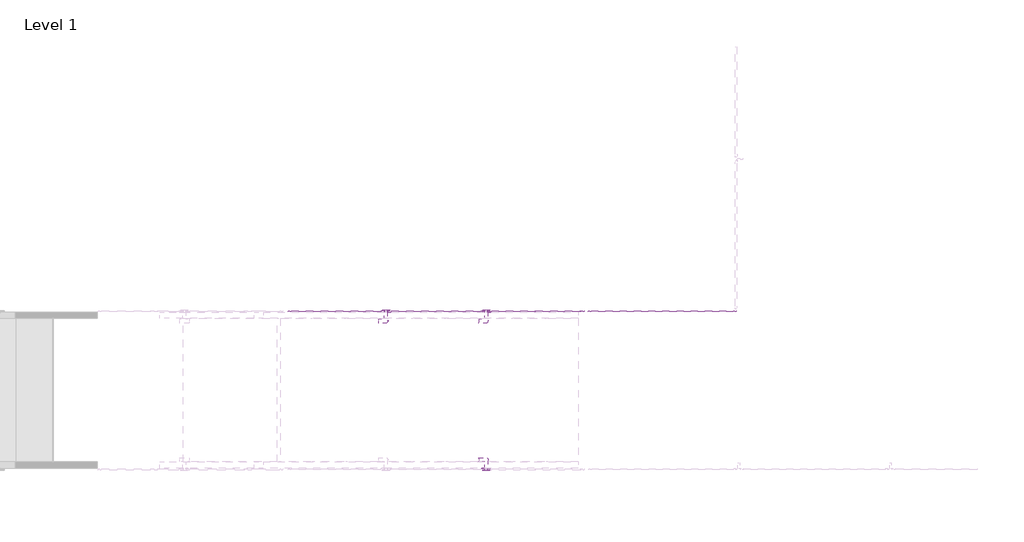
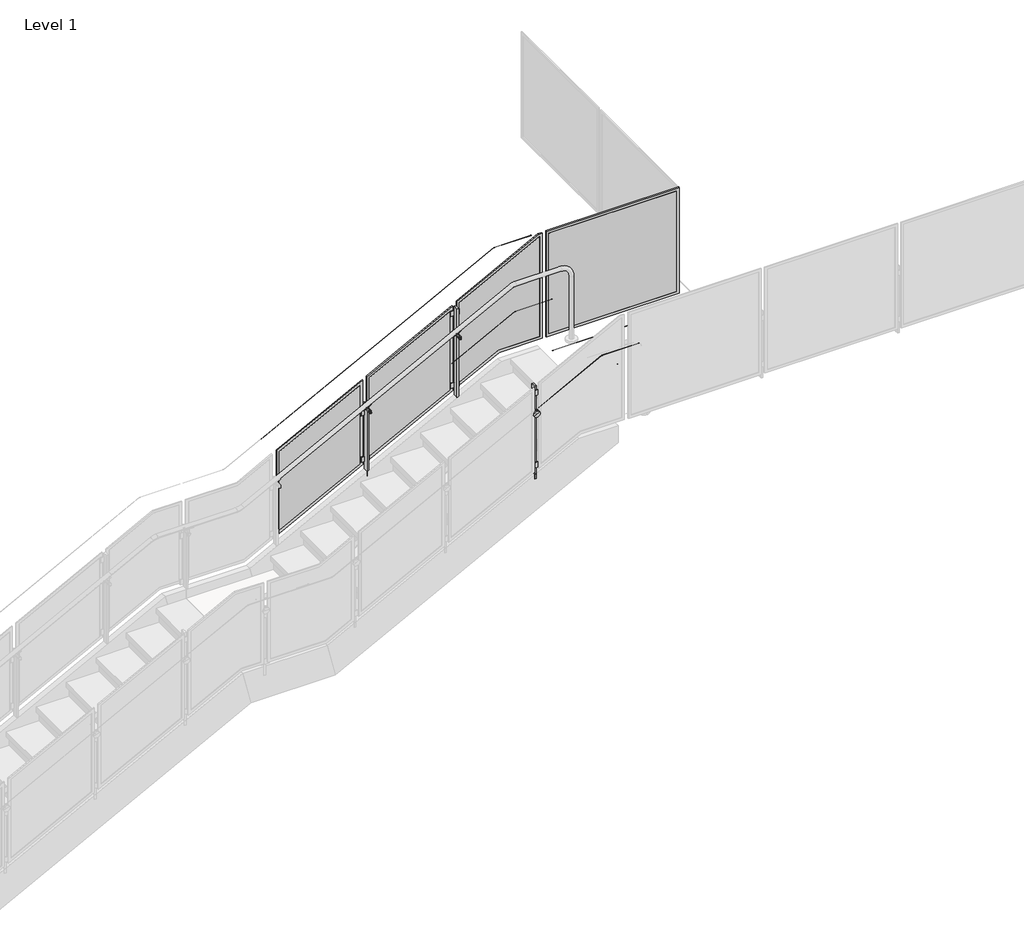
# One storey, part 8 of 28: 5 railings.
"""IFC4 building model written with IfcOpenShell, lengths in millimetres."""

from ifc_helpers import new_model, si_unit, point, frame, frame_2d, origin, place, context, project, spatial, polyline, circle_curve, ellipse_curve, trimmed, segment, composite_curve, outline, extrude, transform, mapped, element, save
from ifc_brep_helpers import plane_surface, cylinder_surface, advanced_brep
from components import standard_pp01_6004dbfb

model = new_model("IFC4")

# Units and contexts
model_context = context("Model", 3, world=origin())
ifc_project = project(units=[si_unit("LENGTHUNIT", "METRE", prefix="MILLI")], contexts=[model_context])

# Site, building, storey
site = spatial("IfcSite", under=ifc_project)
building = spatial("IfcBuilding", under=site)
storey = spatial("IfcBuildingStorey", under=building, Name="Level 1", Elevation=0.0)

# Railings
placement = place(None, origin())
element("IfcRailing", 1, ObjectType="Metal-Panel-VIVA-STRUC-Slab-Top-Weld-Straight", at=placement, inside=storey, context=model_context, shape_type="SweptSolid", body=[
    extrude(outline(composite_curve([segment(trimmed(circle_curve(frame_2d((-30291.0239606, 3047.746)), 0.254), [point((-30291.2779606, 3047.746))], [point((-30290.7699606, 3047.746))], False, "CARTESIAN"), True, "CONTINUOUS"), segment(trimmed(circle_curve(frame_2d((-30291.0239606, 3047.746)), 0.254), [point((-30290.7699606, 3047.746))], [point((-30291.2779606, 3047.746))], False, "CARTESIAN"), True, "CONTINUOUS")], self_intersect=False)), frame((-12280.9563244, 0.0, 0.0), z_axis=(1.0, 0.0, 0.0), x_axis=(0.0, 1.0, 0.0)), (0.0, 0.0, 1.0), 1270.0),
    extrude(outline(composite_curve([segment(trimmed(circle_curve(frame_2d((-30291.0239606, 3047.746)), 0.254), [point((-30291.2779606, 3047.746))], [point((-30290.7699606, 3047.746))], False, "CARTESIAN"), True, "CONTINUOUS"), segment(trimmed(circle_curve(frame_2d((-30291.0239606, 3047.746)), 0.254), [point((-30290.7699606, 3047.746))], [point((-30291.2779606, 3047.746))], False, "CARTESIAN"), True, "CONTINUOUS")], self_intersect=False)), frame((-12280.9563244, 0.0, 0.0), z_axis=(1.0, 0.0, 0.0), x_axis=(0.0, 1.0, 0.0)), (0.0, 0.0, 1.0), 1270.0),
    extrude(outline(polyline([(-12240.1298675, -30164.1749606), (-11051.7827814, -30164.1749606), (-11051.7827814, -30167.1749606), (-12240.1298675, -30167.1749606), (-12240.1298675, -30164.1749606)])), frame((0.0, 0.0, 3124.1959569), z_axis=(0.0, 0.0, 1.0), x_axis=(1.0, 0.0, 0.0)), (0.0, 0.0, 1.0), 990.5826861),
    extrude(outline(polyline([(4140.1786431, -12265.5298675), (3098.7959569, -12265.5298675), (3098.7959569, -11026.3827814), (4140.1786431, -11026.3827814), (4140.1786431, -12265.5298675)]), holes=[polyline([(3124.1959569, -12240.1298675), (4114.7786431, -12240.1298675), (4114.7786431, -11051.7827814), (3124.1959569, -11051.7827814), (3124.1959569, -12240.1298675)])]), frame((0.0, -30167.1749606, 0.0), z_axis=(0.0, 1.0, 0.0), x_axis=(0.0, 0.0, 1.0)), (0.0, 0.0, 1.0), 9.525),
])
element("IfcRailing", 2, ObjectType="Metal-Panel-VIVA-STRUC-Slab-Top-Weld-Stairs-Landing-Upper", at=placement, inside=storey, context=model_context, shape_type="SolidModel", body=[
    advanced_brep(
    [(-13220.4217998, -31353.5467116, 3250.0824994), (-13220.4217998, -31353.0387116, 3250.0824994), (-12629.8192861, -31353.5467116, 3556.889), (-12629.8192861, -31353.0387116, 3556.889), (-12280.6217998, -31353.5467116, 3556.889), (-12280.6217998, -31353.0387116, 3556.889)],
    [
        (0, 1, ellipse_curve(frame((-13220.4217998, -31353.2927116, 3250.0824994), z_axis=(-1.0, 0.0, 0.0), x_axis=(0.0, 0.0, -0.9999999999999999)), 0.2862277, 0.254)),
        (1, 0, ellipse_curve(frame((-13220.4217998, -31353.2927116, 3250.0824994), z_axis=(-1.0, 0.0, 0.0), x_axis=(0.0, 0.0, -0.9999999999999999)), 0.2862277, 0.254)),
        (0, 2),
        (2, 3, ellipse_curve(frame((-12629.8192861, -31353.2927116, 3556.889), z_axis=(-0.9714436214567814, 0.0, -0.23727050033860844), x_axis=(0.23727050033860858, 0.0, -0.9714436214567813)), 0.2614665, 0.254)),
        (3, 1),
        (3, 2, ellipse_curve(frame((-12629.8192861, -31353.2927116, 3556.889), z_axis=(-0.9714436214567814, 0.0, -0.23727050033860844), x_axis=(0.23727050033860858, 0.0, -0.9714436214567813)), 0.2614665, 0.254)),
        (4, 5, circle_curve(frame((-12280.6217998, -31353.2927116, 3556.889), z_axis=(1.0, 0.0, 0.0), x_axis=(0.0, 1.0, 0.0)), 0.254)),
        (5, 4, circle_curve(frame((-12280.6217998, -31353.2927116, 3556.889), z_axis=(1.0, 0.0, 0.0), x_axis=(0.0, 1.0, 0.0)), 0.254)),
        (2, 4),
        (5, 3),
    ],
    [
        plane_surface(frame((-13220.4217998, -31353.2927116, 3250.3687271), z_axis=(-1.0, 0.0, 0.0), x_axis=(0.0, 1.0, 0.0))),
        cylinder_surface(frame((-13220.3047084, -31353.2927116, 3250.1433261), z_axis=(-0.8874054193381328, 0.0, -0.4609898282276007), x_axis=(0.0, 1.0, 0.0)), 0.254),
        plane_surface(frame((-12280.6217998, -31353.2927116, 3557.143), z_axis=(1.0, 0.0, 0.0), x_axis=(0.0, 1.0, 0.0))),
        cylinder_surface(frame((-12629.8813244, -31353.2927116, 3556.889), z_axis=(-1.0, 0.0, 0.0), x_axis=(0.0, 1.0, 0.0)), 0.254),
    ],
    [
        (0, [[1, 2]]),
        (1, [[-1, 3, 4, 5]]),
        (1, [[-2, -5, 6, -3]]),
        (2, [[7, 8]]),
        (3, [[-4, 9, -8, 10]]),
        (3, [[-6, -10, -7, -9]]),
    ],
),
    advanced_brep(
    [(-13220.4217998, -31698.1375116, 3667.7622867), (-13220.4217998, -31697.1375116, 3667.7622867), (-12629.7592018, -31698.1375116, 3974.6), (-12629.7592018, -31697.1375116, 3974.6), (-12280.6217998, -31698.1375116, 3974.6), (-12280.6217998, -31697.1375116, 3974.6)],
    [
        (0, 1, ellipse_curve(frame((-13220.4217998, -31697.6375116, 3667.7622867), z_axis=(-1.0, 0.0, 0.0), x_axis=(0.0, 0.0, -0.9999999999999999)), 0.5634403, 0.5)),
        (1, 0, ellipse_curve(frame((-13220.4217998, -31697.6375116, 3667.7622867), z_axis=(-1.0, 0.0, 0.0), x_axis=(0.0, 0.0, -0.9999999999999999)), 0.5634403, 0.5)),
        (0, 2),
        (2, 3, ellipse_curve(frame((-12629.7592018, -31697.6375116, 3974.6), z_axis=(-0.9714436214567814, 0.0, -0.23727050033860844), x_axis=(0.23727050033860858, 0.0, -0.9714436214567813)), 0.5146979, 0.5)),
        (3, 1),
        (3, 2, ellipse_curve(frame((-12629.7592018, -31697.6375116, 3974.6), z_axis=(-0.9714436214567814, 0.0, -0.23727050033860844), x_axis=(0.23727050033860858, 0.0, -0.9714436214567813)), 0.5146979, 0.5)),
        (4, 5, circle_curve(frame((-12280.6217998, -31697.6375116, 3974.6), z_axis=(1.0, 0.0, 0.0), x_axis=(0.0, 1.0, 0.0)), 0.5)),
        (5, 4, circle_curve(frame((-12280.6217998, -31697.6375116, 3974.6), z_axis=(1.0, 0.0, 0.0), x_axis=(0.0, 1.0, 0.0)), 0.5)),
        (2, 4),
        (5, 3),
    ],
    [
        plane_surface(frame((-13220.4217998, -31697.6375116, 3668.3257271), z_axis=(-1.0, 0.0, 0.0), x_axis=(0.0, 1.0, 0.0))),
        cylinder_surface(frame((-13220.1913049, -31697.6375116, 3667.8820244), z_axis=(-0.8874054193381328, 0.0, -0.4609898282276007), x_axis=(0.0, 1.0, 0.0)), 0.5),
        plane_surface(frame((-12280.6217998, -31697.6375116, 3975.1), z_axis=(1.0, 0.0, 0.0), x_axis=(0.0, 1.0, 0.0))),
        cylinder_surface(frame((-12629.8813244, -31697.6375116, 3974.6), z_axis=(-1.0, 0.0, 0.0), x_axis=(0.0, 1.0, 0.0)), 0.5),
    ],
    [
        (0, [[1, 2]]),
        (1, [[-1, 3, 4, 5]]),
        (1, [[-2, -5, 6, -3]]),
        (2, [[7, 8]]),
        (3, [[-4, 9, -8, 10]]),
        (3, [[-6, -10, -7, -9]]),
    ],
),
    extrude(outline(polyline([(-13156.9225191, -31472.8759116), (-13080.7210806, -31472.8759116), (-13080.7210806, -31479.9879116), (-13156.9225191, -31479.9879116), (-13156.9225191, -31472.8759116)])), frame((0.0, 0.0, 3617.9809479), z_axis=(0.0, 0.0, 1.0), x_axis=(1.0, 0.0, 0.0)), (0.0, 0.0, 1.0), 50.8),
    extrude(outline(polyline([(-13156.9225191, -31472.8759116), (-13080.7210806, -31472.8759116), (-13080.7210806, -31479.9879116), (-13156.9225191, -31479.9879116), (-13156.9225191, -31472.8759116)])), frame((0.0, 0.0, 2906.7809479), z_axis=(0.0, 0.0, 1.0), x_axis=(1.0, 0.0, 0.0)), (0.0, 0.0, 1.0), 50.8),
    extrude(outline(composite_curve([segment(polyline([(2.99974, 1e-07), (0.0, 0.0)]), True, "CONTINUOUS"), segment(trimmed(circle_curve(frame_2d((-19.0451471, 0.0)), 19.0451471), [point((0.0, 0.0))], [point((-23.6280664, 18.4855208))], True, "CARTESIAN"), True, "CONTINUOUS"), segment(polyline([(-23.6280664, 18.4855208), (-24.3499073, 21.397116)]), True, "CONTINUOUS"), segment(trimmed(circle_curve(frame_2d((-19.0451471, 0.0)), 22.0448871), [point((-24.3499073, 21.397116))], [point((2.99974, 1e-07))], False, "CARTESIAN"), True, "CONTINUOUS")], self_intersect=False)), frame((-13181.3095103, -31418.7879116, 3479.4567447), z_axis=(0.8874054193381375, 0.0, 0.4609898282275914), x_axis=(0.2840545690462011, -0.7876022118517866, -0.5468050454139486)), (0.0, 0.0, 1.0), 79.1184357),
    advanced_brep(
    [(-13106.4246222, -31403.7879116, 3421.1169809), (-13106.4246222, -31410.9316616, 3421.1169809), (-13106.4246222, -31396.6441616, 3421.1169809), (-13142.2838684, -31410.9316616, 3490.14603), (-13142.2838684, -31403.7879116, 3490.14603), (-13142.2838684, -31396.6441616, 3490.14603)],
    [
        (0, 1),
        (1, 2, circle_curve(frame((-13106.4246222, -31403.7879116, 3421.1169809), z_axis=(0.46098982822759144, 0.0, -0.8874054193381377), x_axis=(0.0, 1.0000000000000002, 0.0)), 7.14375)),
        (2, 0),
        (3, 4),
        (4, 5),
        (5, 3, circle_curve(frame((-13142.2838684, -31403.7879116, 3490.14603), z_axis=(-0.46098982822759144, 0.0, 0.8874054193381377), x_axis=(0.0, 1.0000000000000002, 0.0)), 7.14375)),
        (2, 1, circle_curve(frame((-13106.4246222, -31403.7879116, 3421.1169809), z_axis=(0.46098982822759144, 0.0, -0.8874054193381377), x_axis=(0.0, 1.0000000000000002, 0.0)), 7.14375)),
        (3, 5, circle_curve(frame((-13142.2838684, -31403.7879116, 3490.14603), z_axis=(-0.46098982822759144, 0.0, 0.8874054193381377), x_axis=(0.0, 1.0000000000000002, 0.0)), 7.14375)),
        (1, 3),
        (5, 2),
    ],
    [
        plane_surface(frame((-13106.4246222, -31403.7879116, 3421.1169809), z_axis=(0.46098982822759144, 0.0, -0.8874054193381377), x_axis=(0.0, 1.0, 0.0))),
        plane_surface(frame((-13142.2838684, -31403.7879116, 3490.14603), z_axis=(-0.46098982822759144, 0.0, 0.8874054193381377), x_axis=(0.0, 1.0, 0.0))),
        cylinder_surface(frame((-12989.4704223, -31403.7879116, 3195.9801462), z_axis=(0.46098982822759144, 0.0, -0.8874054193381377), x_axis=(0.0, 1.0000000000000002, 0.0)), 7.14375),
    ],
    [
        (0, [[1, 2, 3]]),
        (1, [[4, 5, 6]]),
        (0, [[-3, 7, -1]]),
        (1, [[-5, -4, 8]]),
        (2, [[9, -6, 10, -2]]),
        (2, [[-10, -8, -9, -7]]),
    ],
),
    advanced_brep(
    [(-13145.5881658, -31489.5129116, 3431.0769422), (-13124.4568242, -31489.5129116, 3442.0542624), (-13113.1867754, -31489.5129116, 3447.9088333), (-13092.0554339, -31489.5129116, 3458.8861535), (-13145.5881658, -31497.4504116, 3431.0769422), (-13092.0554339, -31497.4504116, 3458.8861535), (-13145.5881658, -31472.0504116, 3431.0769422), (-13130.0918486, -31472.0504116, 3439.126977), (-13107.551751, -31472.0504116, 3450.8361187), (-13092.0554339, -31472.0504116, 3458.8861535), (-13145.5881658, -31479.9879116, 3431.0769422), (-13092.0554339, -31479.9879116, 3458.8861535), (-13118.8217998, -31497.4504116, 3444.9815479), (-13130.0918486, -31392.6754116, 3439.126977), (-13118.8217998, -31392.6754116, 3444.9815479), (-13107.551751, -31392.6754116, 3450.8361187), (-13124.4568242, -31479.9879116, 3442.0542624), (-13113.1867754, -31479.9879116, 3447.9088333)],
    [
        (0, 1),
        (1, 2, circle_curve(frame((-13118.8217998, -31489.5129116, 3444.9815479), z_axis=(0.0, -1.0, 0.0), x_axis=(0.8874054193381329, 0.0, 0.46098982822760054)), 6.35)),
        (2, 3),
        (3, 0, circle_curve(frame((-13118.8217998, -31489.5129116, 3444.9815479), z_axis=(0.0, 1.0, 0.0), x_axis=(0.8874054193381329, 0.0, 0.46098982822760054)), 30.1625)),
        (4, 0),
        (3, 5),
        (5, 4, circle_curve(frame((-13118.8217998, -31497.4504116, 3444.9815479), z_axis=(0.0, 1.0, 0.0), x_axis=(0.8874054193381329, 0.0, 0.46098982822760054)), 30.1625)),
        (6, 7),
        (7, 8, circle_curve(frame((-13118.8217998, -31472.0504116, 3444.9815479), z_axis=(0.0, -1.0, 0.0), x_axis=(0.8874054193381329, 0.0, 0.46098982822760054)), 12.7)),
        (8, 9),
        (9, 6, circle_curve(frame((-13118.8217998, -31472.0504116, 3444.9815479), z_axis=(0.0, 1.0, 0.0), x_axis=(0.8874054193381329, 0.0, 0.46098982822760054)), 30.1625)),
        (10, 6),
        (9, 11),
        (11, 10, circle_curve(frame((-13118.8217998, -31479.9879116, 3444.9815479), z_axis=(0.0, 1.0, 0.0), x_axis=(0.8874054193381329, 0.0, 0.46098982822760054)), 30.1625)),
        (3, 0, circle_curve(frame((-13118.8217998, -31489.5129116, 3444.9815479), z_axis=(0.0, -1.0, 0.0), x_axis=(0.8874054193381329, 0.0, 0.46098982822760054)), 30.1625)),
        (4, 5, circle_curve(frame((-13118.8217998, -31497.4504116, 3444.9815479), z_axis=(0.0, 1.0, 0.0), x_axis=(0.8874054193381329, 0.0, 0.46098982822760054)), 30.1625)),
        (12, 4),
        (5, 12),
        (13, 14),
        (14, 15),
        (15, 13, circle_curve(frame((-13118.8217998, -31392.6754116, 3444.9815479), z_axis=(0.0, 1.0, 0.0), x_axis=(0.8874054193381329, 0.0, 0.46098982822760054)), 12.7)),
        (13, 15, circle_curve(frame((-13118.8217998, -31392.6754116, 3444.9815479), z_axis=(0.0, 1.0, 0.0), x_axis=(0.8874054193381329, 0.0, 0.46098982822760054)), 12.7)),
        (7, 13),
        (15, 8),
        (7, 8, circle_curve(frame((-13118.8217998, -31472.0504116, 3444.9815479), z_axis=(0.0, 1.0, 0.0), x_axis=(0.8874054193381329, 0.0, 0.46098982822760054)), 12.7)),
        (6, 9, circle_curve(frame((-13118.8217998, -31472.0504116, 3444.9815479), z_axis=(0.0, 1.0, 0.0), x_axis=(0.8874054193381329, 0.0, 0.46098982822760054)), 30.1625)),
        (10, 11, circle_curve(frame((-13118.8217998, -31479.9879116, 3444.9815479), z_axis=(0.0, 1.0, 0.0), x_axis=(0.8874054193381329, 0.0, 0.46098982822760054)), 30.1625)),
        (16, 10),
        (11, 17),
        (17, 16, circle_curve(frame((-13118.8217998, -31479.9879116, 3444.9815479), z_axis=(0.0, 1.0, 0.0), x_axis=(0.8874054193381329, 0.0, 0.46098982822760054)), 6.35)),
        (16, 17, circle_curve(frame((-13118.8217998, -31479.9879116, 3444.9815479), z_axis=(0.0, 1.0, 0.0), x_axis=(0.8874054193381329, 0.0, 0.46098982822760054)), 6.35)),
        (1, 16),
        (17, 2),
        (1, 2, circle_curve(frame((-13118.8217998, -31489.5129116, 3444.9815479), z_axis=(0.0, 1.0, 0.0), x_axis=(0.8874054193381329, 0.0, 0.46098982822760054)), 6.35)),
    ],
    [
        plane_surface(frame((-13118.8217998, -31489.5129116, 3444.9815479), z_axis=(0.0, 1.0000000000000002, 0.0), x_axis=(0.8874054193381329, 0.0, 0.46098982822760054))),
        cylinder_surface(frame((-13118.8217998, -33003.9879116, 3444.9815479), z_axis=(0.0, -1.0000000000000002, 0.0), x_axis=(0.8874054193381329, 0.0, 0.46098982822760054)), 30.1625),
        plane_surface(frame((-13118.8217998, -31472.0504116, 3444.9815479), z_axis=(0.0, 1.0000000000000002, 0.0), x_axis=(0.8874054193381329, 0.0, 0.46098982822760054))),
        plane_surface(frame((-13118.8217998, -31497.4504116, 3444.9815479), z_axis=(0.0, -1.0000000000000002, 0.0), x_axis=(0.8874054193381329, 0.0, 0.46098982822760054))),
        plane_surface(frame((-13118.8217998, -31392.6754116, 3444.9815479), z_axis=(0.0, 1.0000000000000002, 0.0), x_axis=(0.8874054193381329, 0.0, 0.46098982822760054))),
        cylinder_surface(frame((-13118.8217998, -33003.9879116, 3444.9815479), z_axis=(0.0, -1.0000000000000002, 0.0), x_axis=(0.8874054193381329, 0.0, 0.46098982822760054)), 12.7),
        plane_surface(frame((-13118.8217998, -31479.9879116, 3444.9815479), z_axis=(0.0, -1.0000000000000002, 0.0), x_axis=(0.8874054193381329, 0.0, 0.46098982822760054))),
        cylinder_surface(frame((-13118.8217998, -33003.9879116, 3444.9815479), z_axis=(0.0, -1.0000000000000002, 0.0), x_axis=(0.8874054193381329, 0.0, 0.46098982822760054)), 6.35),
    ],
    [
        (0, [[1, 2, 3, 4]]),
        (1, [[5, -4, 6, 7]]),
        (2, [[8, 9, 10, 11]]),
        (1, [[12, -11, 13, 14]]),
        (1, [[-6, 15, -5, 16]]),
        (3, [[17, -7, 18]]),
        (3, [[-18, -16, -17]]),
        (4, [[19, 20, 21]]),
        (4, [[-20, -19, 22]]),
        (5, [[23, -21, 24, -9]]),
        (5, [[-24, -22, -23, 25]]),
        (2, [[-10, -25, -8, 26]]),
        (1, [[-13, -26, -12, 27]]),
        (6, [[28, -14, 29, 30]]),
        (6, [[-29, -27, -28, 31]]),
        (7, [[32, -30, 33, -2]]),
        (7, [[-33, -31, -32, 34]]),
        (0, [[-3, -34, -1, -15]]),
    ],
),
    extrude(outline(polyline([(-13126.7613915, -31428.4259116), (-13110.8822082, -31428.4259116), (-13110.8822082, -31472.8759116), (-13126.7613915, -31472.8759116), (-13126.7613915, -31428.4259116)])), frame((0.0, 0.0, 2794.0049479), z_axis=(0.0, 0.0, 1.0), x_axis=(1.0, 0.0, 0.0)), (0.0, 0.0, 1.0), 914.4),
])
element("IfcRailing", 3, ObjectType="Metal-Panel-VIVA-STRUC-Slab-Top-Weld-Stairs-Upper", at=placement, inside=storey, context=model_context, shape_type="SolidModel", body=[
    advanced_brep(
    [(-14795.2265621, -29950.0180259, 2849.6818907), (-14795.2265621, -29949.0180259, 2849.6818907), (-13118.8265621, -29950.0180259, 3720.5390336), (-13118.8265621, -29949.0180259, 3720.5390336)],
    [
        (0, 1, ellipse_curve(frame((-14795.2265621, -29949.5180259, 2849.6818907), z_axis=(-1.0, 0.0, 0.0), x_axis=(0.0, 0.0, -1.0)), 0.5634403, 0.5)),
        (1, 0, ellipse_curve(frame((-14795.2265621, -29949.5180259, 2849.6818907), z_axis=(-1.0, 0.0, 0.0), x_axis=(0.0, 0.0, -1.0)), 0.5634403, 0.5)),
        (2, 3, ellipse_curve(frame((-13118.8265621, -29949.5180259, 3720.5390336), z_axis=(1.0, 0.0, 0.0), x_axis=(0.0, 0.0, -1.0)), 0.5634403, 0.5)),
        (3, 2, ellipse_curve(frame((-13118.8265621, -29949.5180259, 3720.5390336), z_axis=(1.0, 0.0, 0.0), x_axis=(0.0, 0.0, -1.0)), 0.5634403, 0.5)),
        (0, 2),
        (3, 1),
    ],
    [
        plane_surface(frame((-14795.2265621, -29949.5180259, 2850.2453311), z_axis=(-1.0, 0.0, 0.0), x_axis=(0.0, 1.0, 0.0))),
        plane_surface(frame((-13118.8265621, -29949.5180259, 3721.1024739), z_axis=(1.0, 0.0, 0.0), x_axis=(0.0, 1.0, 0.0))),
        cylinder_surface(frame((-14794.9960672, -29949.5180259, 2849.8016284), z_axis=(-0.8874054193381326, 0.0, -0.46098982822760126), x_axis=(0.0, 1.0, 0.0)), 0.5),
    ],
    [
        (0, [[1, 2]]),
        (1, [[3, 4]]),
        (2, [[-1, 5, -4, 6]]),
        (2, [[-2, -6, -3, -5]]),
    ],
),
    extrude(outline(polyline([(2501.7575082, -13912.5806052), (2891.008462, -13163.2725191), (3666.9966682, -13163.2725191), (3277.7457144, -13912.5806052), (2501.7575082, -13912.5806052)])), frame((0.0, -30167.1690259, 0.0), z_axis=(0.0, 1.0, 0.0), x_axis=(0.0, 0.0, 1.0)), (0.0, 0.0, 1.0), 3.0),
    extrude(outline(polyline([(3293.1736778, -13937.9806052), (2459.9399344, -13937.9806052), (2875.5804986, -13137.8725191), (3708.8142421, -13137.8725191), (3293.1736778, -13937.9806052)]), holes=[polyline([(2501.7575082, -13912.5806052), (3277.7457144, -13912.5806052), (3666.9966682, -13163.2725191), (2891.008462, -13163.2725191), (2501.7575082, -13912.5806052)])]), frame((0.0, -30167.1690259, 0.0), z_axis=(0.0, 1.0, 0.0), x_axis=(0.0, 0.0, 1.0)), (0.0, 0.0, 1.0), 9.525),
    extrude(outline(polyline([(-13995.1272814, -30174.2796259), (-13995.1272814, -30167.1676259), (-13918.9258429, -30167.1676259), (-13918.9258429, -30174.2796259), (-13995.1272814, -30174.2796259)])), frame((0.0, 0.0, 2928.5499025), z_axis=(0.0, 0.0, 1.0), x_axis=(1.0, 0.0, 0.0)), (0.0, 0.0, 1.0), 50.8),
    extrude(outline(polyline([(-13995.1272814, -30174.2796259), (-13995.1272814, -30167.1676259), (-13918.9258429, -30167.1676259), (-13918.9258429, -30174.2796259), (-13995.1272814, -30174.2796259)])), frame((0.0, 0.0, 2471.3499025), z_axis=(0.0, 0.0, 1.0), x_axis=(1.0, 0.0, 0.0)), (0.0, 0.0, 1.0), 50.8),
    extrude(outline(composite_curve([segment(trimmed(circle_curve(frame_2d((-19.0451472, 1e-07)), 22.0448871), [point((2.99974, 1e-07))], [point((-24.3499072, -21.3971158))], False, "CARTESIAN"), True, "CONTINUOUS"), segment(polyline([(-24.3499072, -21.3971158), (-23.6280664, -18.4855208)]), True, "CONTINUOUS"), segment(trimmed(circle_curve(frame_2d((-19.0451472, 1e-07)), 19.0451471), [point((-23.6280664, -18.4855208))], [point((0.0, 0.0))], True, "CARTESIAN"), True, "CONTINUOUS"), segment(polyline([(0.0, 0.0), (2.99974, 1e-07)]), True, "CONTINUOUS")], self_intersect=False)), frame((-14019.5142726, -30228.3676259, 3044.0256993), z_axis=(0.8874054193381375, 0.0, 0.4609898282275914), x_axis=(0.284054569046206, 0.7876022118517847, -0.5468050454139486)), (0.0, 0.0, 1.0), 79.1184357),
    advanced_brep(
    [(-13944.6293845, -30243.3676259, 2985.6859356), (-13944.6293845, -30250.5113759, 2985.6859356), (-13944.6293845, -30236.2238759, 2985.6859356), (-13980.4886307, -30236.2238759, 3054.7149846), (-13980.4886307, -30250.5113759, 3054.7149846), (-13980.4886307, -30243.3676259, 3054.7149846)],
    [
        (0, 1),
        (1, 2, circle_curve(frame((-13944.6293845, -30243.3676259, 2985.6859356), z_axis=(0.46098982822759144, 0.0, -0.8874054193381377), x_axis=(0.0, -1.0000000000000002, 0.0)), 7.14375)),
        (2, 0),
        (3, 4, circle_curve(frame((-13980.4886307, -30243.3676259, 3054.7149846), z_axis=(-0.46098982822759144, 0.0, 0.8874054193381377), x_axis=(0.0, -1.0000000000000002, 0.0)), 7.14375)),
        (4, 5),
        (5, 3),
        (2, 1, circle_curve(frame((-13944.6293845, -30243.3676259, 2985.6859356), z_axis=(0.46098982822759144, 0.0, -0.8874054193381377), x_axis=(0.0, -1.0000000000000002, 0.0)), 7.14375)),
        (4, 3, circle_curve(frame((-13980.4886307, -30243.3676259, 3054.7149846), z_axis=(-0.46098982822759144, 0.0, 0.8874054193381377), x_axis=(0.0, -1.0000000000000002, 0.0)), 7.14375)),
        (1, 4),
        (3, 2),
    ],
    [
        plane_surface(frame((-13944.6293845, -30243.3676259, 2985.6859356), z_axis=(0.46098982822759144, 0.0, -0.8874054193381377), x_axis=(0.0, -1.0, 0.0))),
        plane_surface(frame((-13980.4886307, -30243.3676259, 3054.7149846), z_axis=(-0.46098982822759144, 0.0, 0.8874054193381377), x_axis=(0.0, -1.0, 0.0))),
        cylinder_surface(frame((-13827.6751846, -30243.3676259, 2760.5491008), z_axis=(0.46098982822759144, 0.0, -0.8874054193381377), x_axis=(0.0, -1.0000000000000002, 0.0)), 7.14375),
    ],
    [
        (0, [[1, 2, 3]]),
        (1, [[4, 5, 6]]),
        (0, [[-3, 7, -1]]),
        (1, [[8, -6, -5]]),
        (2, [[-2, 9, -4, 10]]),
        (2, [[-7, -10, -8, -9]]),
    ],
),
    advanced_brep(
    [(-13983.7929281, -30157.6426259, 2995.6458968), (-13930.2601962, -30157.6426259, 3023.4551082), (-13951.3915377, -30157.6426259, 3012.4777879), (-13962.6615865, -30157.6426259, 3006.6232171), (-13983.7929281, -30149.7051259, 2995.6458968), (-13930.2601962, -30149.7051259, 3023.4551082), (-13983.7929281, -30175.1051259, 2995.6458968), (-13930.2601962, -30175.1051259, 3023.4551082), (-13945.7565133, -30175.1051259, 3015.4050733), (-13968.2966109, -30175.1051259, 3003.6959317), (-13983.7929281, -30167.1676259, 2995.6458968), (-13930.2601962, -30167.1676259, 3023.4551082), (-13957.0265621, -30149.7051259, 3009.5505025), (-13968.2966109, -30254.4801259, 3003.6959317), (-13945.7565133, -30254.4801259, 3015.4050733), (-13957.0265621, -30254.4801259, 3009.5505025), (-13962.6615865, -30167.1676259, 3006.6232171), (-13951.3915377, -30167.1676259, 3012.4777879)],
    [
        (0, 1, circle_curve(frame((-13957.0265621, -30157.6426259, 3009.5505025), z_axis=(0.0, -1.0, 0.0), x_axis=(0.8874054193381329, 0.0, 0.46098982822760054)), 30.1625)),
        (1, 2),
        (2, 3, circle_curve(frame((-13957.0265621, -30157.6426259, 3009.5505025), z_axis=(0.0, 1.0, 0.0), x_axis=(0.8874054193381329, 0.0, 0.46098982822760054)), 6.35)),
        (3, 0),
        (4, 5, circle_curve(frame((-13957.0265621, -30149.7051259, 3009.5505025), z_axis=(0.0, -1.0, 0.0), x_axis=(0.8874054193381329, 0.0, 0.46098982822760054)), 30.1625)),
        (5, 1),
        (0, 4),
        (6, 7, circle_curve(frame((-13957.0265621, -30175.1051259, 3009.5505025), z_axis=(0.0, -1.0, 0.0), x_axis=(0.8874054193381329, 0.0, 0.46098982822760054)), 30.1625)),
        (7, 8),
        (8, 9, circle_curve(frame((-13957.0265621, -30175.1051259, 3009.5505025), z_axis=(0.0, 1.0, 0.0), x_axis=(0.8874054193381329, 0.0, 0.46098982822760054)), 12.7)),
        (9, 6),
        (10, 11, circle_curve(frame((-13957.0265621, -30167.1676259, 3009.5505025), z_axis=(0.0, -1.0, 0.0), x_axis=(0.8874054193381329, 0.0, 0.46098982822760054)), 30.1625)),
        (11, 7),
        (6, 10),
        (5, 4, circle_curve(frame((-13957.0265621, -30149.7051259, 3009.5505025), z_axis=(0.0, -1.0, 0.0), x_axis=(0.8874054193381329, 0.0, 0.46098982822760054)), 30.1625)),
        (0, 1, circle_curve(frame((-13957.0265621, -30157.6426259, 3009.5505025), z_axis=(0.0, 1.0, 0.0), x_axis=(0.8874054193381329, 0.0, 0.46098982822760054)), 30.1625)),
        (12, 5),
        (4, 12),
        (13, 14, circle_curve(frame((-13957.0265621, -30254.4801259, 3009.5505025), z_axis=(0.0, -1.0, 0.0), x_axis=(0.8874054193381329, 0.0, 0.46098982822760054)), 12.7)),
        (14, 15),
        (15, 13),
        (14, 13, circle_curve(frame((-13957.0265621, -30254.4801259, 3009.5505025), z_axis=(0.0, -1.0, 0.0), x_axis=(0.8874054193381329, 0.0, 0.46098982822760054)), 12.7)),
        (8, 14),
        (13, 9),
        (8, 9, circle_curve(frame((-13957.0265621, -30175.1051259, 3009.5505025), z_axis=(0.0, -1.0, 0.0), x_axis=(0.8874054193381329, 0.0, 0.46098982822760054)), 12.7)),
        (7, 6, circle_curve(frame((-13957.0265621, -30175.1051259, 3009.5505025), z_axis=(0.0, -1.0, 0.0), x_axis=(0.8874054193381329, 0.0, 0.46098982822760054)), 30.1625)),
        (11, 10, circle_curve(frame((-13957.0265621, -30167.1676259, 3009.5505025), z_axis=(0.0, -1.0, 0.0), x_axis=(0.8874054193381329, 0.0, 0.46098982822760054)), 30.1625)),
        (16, 17, circle_curve(frame((-13957.0265621, -30167.1676259, 3009.5505025), z_axis=(0.0, -1.0, 0.0), x_axis=(0.8874054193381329, 0.0, 0.46098982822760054)), 6.35)),
        (17, 11),
        (10, 16),
        (17, 16, circle_curve(frame((-13957.0265621, -30167.1676259, 3009.5505025), z_axis=(0.0, -1.0, 0.0), x_axis=(0.8874054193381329, 0.0, 0.46098982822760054)), 6.35)),
        (2, 17),
        (16, 3),
        (2, 3, circle_curve(frame((-13957.0265621, -30157.6426259, 3009.5505025), z_axis=(0.0, -1.0, 0.0), x_axis=(0.8874054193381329, 0.0, 0.46098982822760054)), 6.35)),
    ],
    [
        plane_surface(frame((-13957.0265621, -30157.6426259, 3009.5505025), z_axis=(0.0, -1.0000000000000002, 0.0), x_axis=(0.8874054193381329, 0.0, 0.46098982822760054))),
        cylinder_surface(frame((-13957.0265621, -28643.1676259, 3009.5505025), z_axis=(0.0, 1.0000000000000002, 0.0), x_axis=(0.8874054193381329, 0.0, 0.46098982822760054)), 30.1625),
        plane_surface(frame((-13957.0265621, -30175.1051259, 3009.5505025), z_axis=(0.0, -1.0000000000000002, 0.0), x_axis=(0.8874054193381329, 0.0, 0.46098982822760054))),
        plane_surface(frame((-13957.0265621, -30149.7051259, 3009.5505025), z_axis=(0.0, 1.0000000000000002, 0.0), x_axis=(0.8874054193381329, 0.0, 0.46098982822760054))),
        plane_surface(frame((-13957.0265621, -30254.4801259, 3009.5505025), z_axis=(0.0, -1.0000000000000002, 0.0), x_axis=(0.8874054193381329, 0.0, 0.46098982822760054))),
        cylinder_surface(frame((-13957.0265621, -28643.1676259, 3009.5505025), z_axis=(0.0, 1.0000000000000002, 0.0), x_axis=(0.8874054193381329, 0.0, 0.46098982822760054)), 12.7),
        plane_surface(frame((-13957.0265621, -30167.1676259, 3009.5505025), z_axis=(0.0, 1.0000000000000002, 0.0), x_axis=(0.8874054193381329, 0.0, 0.46098982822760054))),
        cylinder_surface(frame((-13957.0265621, -28643.1676259, 3009.5505025), z_axis=(0.0, 1.0000000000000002, 0.0), x_axis=(0.8874054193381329, 0.0, 0.46098982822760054)), 6.35),
    ],
    [
        (0, [[1, 2, 3, 4]]),
        (1, [[5, 6, -1, 7]]),
        (2, [[8, 9, 10, 11]]),
        (1, [[12, 13, -8, 14]]),
        (1, [[15, -7, 16, -6]]),
        (3, [[17, -5, 18]]),
        (3, [[-18, -15, -17]]),
        (4, [[19, 20, 21]]),
        (4, [[22, -21, -20]]),
        (5, [[-10, 23, -19, 24]]),
        (5, [[25, -24, -22, -23]]),
        (2, [[26, -11, -25, -9]]),
        (1, [[27, -14, -26, -13]]),
        (6, [[28, 29, -12, 30]]),
        (6, [[31, -30, -27, -29]]),
        (7, [[-3, 32, -28, 33]]),
        (7, [[34, -33, -31, -32]]),
        (0, [[-16, -4, -34, -2]]),
    ],
),
    extrude(outline(polyline([(-13964.9661538, -30218.7296259), (-13964.9661538, -30174.2796259), (-13949.0869705, -30174.2796259), (-13949.0869705, -30218.7296259), (-13964.9661538, -30218.7296259)])), frame((0.0, 0.0, 2358.5739025), z_axis=(0.0, 0.0, 1.0), x_axis=(1.0, 0.0, 0.0)), (0.0, 0.0, 1.0), 660.4),
    extrude(outline(polyline([(2066.3289368, -14750.7806052), (2455.5798906, -14001.4725191), (3231.5680968, -14001.4725191), (2842.317143, -14750.7806052), (2066.3289368, -14750.7806052)])), frame((0.0, -30167.1690259, 0.0), z_axis=(0.0, 1.0, 0.0), x_axis=(0.0, 0.0, 1.0)), (0.0, 0.0, 1.0), 3.0),
    extrude(outline(polyline([(2857.7451064, -14776.1806052), (2024.5113629, -14776.1806052), (2440.1519272, -13976.0725191), (3273.3856706, -13976.0725191), (2857.7451064, -14776.1806052)]), holes=[polyline([(2066.3289368, -14750.7806052), (2842.317143, -14750.7806052), (3231.5680968, -14001.4725191), (2455.5798906, -14001.4725191), (2066.3289368, -14750.7806052)])]), frame((0.0, -30167.1690259, 0.0), z_axis=(0.0, 1.0, 0.0), x_axis=(0.0, 0.0, 1.0)), (0.0, 0.0, 1.0), 9.525),
])
element("IfcRailing", 4, ObjectType="Metal-Panel-VIVA-STRUC-Slab-Top-Weld-Stairs-Landing-Upper", at=placement, inside=storey, context=model_context, shape_type="SolidModel", body=[
    advanced_brep(
    [(-13220.4217998, -30294.1168259, 3250.0824994), (-13220.4217998, -30293.6088259, 3250.0824994), (-12629.8192861, -30294.1168259, 3556.889), (-12629.8192861, -30293.6088259, 3556.889), (-12280.6217998, -30294.1168259, 3556.889), (-12280.6217998, -30293.6088259, 3556.889)],
    [
        (0, 1, ellipse_curve(frame((-13220.4217998, -30293.8628259, 3250.0824994), z_axis=(-1.0, 0.0, 0.0), x_axis=(0.0, 0.0, -1.0)), 0.2862277, 0.254)),
        (1, 0, ellipse_curve(frame((-13220.4217998, -30293.8628259, 3250.0824994), z_axis=(-1.0, 0.0, 0.0), x_axis=(0.0, 0.0, -1.0)), 0.2862277, 0.254)),
        (0, 2),
        (2, 3, ellipse_curve(frame((-12629.8192861, -30293.8628259, 3556.889), z_axis=(-0.9714436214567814, 0.0, -0.23727050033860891), x_axis=(0.23727050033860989, 0.0, -0.9714436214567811)), 0.2614665, 0.254)),
        (3, 1),
        (3, 2, ellipse_curve(frame((-12629.8192861, -30293.8628259, 3556.889), z_axis=(-0.9714436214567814, 0.0, -0.23727050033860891), x_axis=(0.23727050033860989, 0.0, -0.9714436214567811)), 0.2614665, 0.254)),
        (4, 5, circle_curve(frame((-12280.6217998, -30293.8628259, 3556.889), z_axis=(1.0, 0.0, 0.0), x_axis=(0.0, 1.0, 0.0)), 0.254)),
        (5, 4, circle_curve(frame((-12280.6217998, -30293.8628259, 3556.889), z_axis=(1.0, 0.0, 0.0), x_axis=(0.0, 1.0, 0.0)), 0.254)),
        (2, 4),
        (5, 3),
    ],
    [
        plane_surface(frame((-13220.4217998, -30293.8628259, 3250.3687271), z_axis=(-1.0, 0.0, 0.0), x_axis=(0.0, 1.0, 0.0))),
        cylinder_surface(frame((-13220.3047084, -30293.8628259, 3250.1433261), z_axis=(-0.8874054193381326, 0.0, -0.4609898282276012), x_axis=(0.0, 1.0, 0.0)), 0.254),
        plane_surface(frame((-12280.6217998, -30293.8628259, 3557.143), z_axis=(1.0, 0.0, 0.0), x_axis=(0.0, 1.0, 0.0))),
        cylinder_surface(frame((-12629.8813244, -30293.8628259, 3556.889), z_axis=(-1.0, 0.0, 0.0), x_axis=(0.0, 1.0, 0.0)), 0.254),
    ],
    [
        (0, [[1, 2]]),
        (1, [[-1, 3, 4, 5]]),
        (1, [[-2, -5, 6, -3]]),
        (2, [[7, 8]]),
        (3, [[-4, 9, -8, 10]]),
        (3, [[-6, -10, -7, -9]]),
    ],
),
    advanced_brep(
    [(-13220.4217998, -29950.0180259, 3667.7622867), (-13220.4217998, -29949.0180259, 3667.7622867), (-12629.7592018, -29950.0180259, 3974.6), (-12629.7592018, -29949.0180259, 3974.6), (-12280.6217998, -29950.0180259, 3974.6), (-12280.6217998, -29949.0180259, 3974.6)],
    [
        (0, 1, ellipse_curve(frame((-13220.4217998, -29949.5180259, 3667.7622867), z_axis=(-1.0, 0.0, 0.0), x_axis=(0.0, 0.0, -1.0)), 0.5634403, 0.5)),
        (1, 0, ellipse_curve(frame((-13220.4217998, -29949.5180259, 3667.7622867), z_axis=(-1.0, 0.0, 0.0), x_axis=(0.0, 0.0, -1.0)), 0.5634403, 0.5)),
        (0, 2),
        (2, 3, ellipse_curve(frame((-12629.7592018, -29949.5180259, 3974.6), z_axis=(-0.9714436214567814, 0.0, -0.23727050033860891), x_axis=(0.23727050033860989, 0.0, -0.9714436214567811)), 0.5146979, 0.5)),
        (3, 1),
        (3, 2, ellipse_curve(frame((-12629.7592018, -29949.5180259, 3974.6), z_axis=(-0.9714436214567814, 0.0, -0.23727050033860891), x_axis=(0.23727050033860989, 0.0, -0.9714436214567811)), 0.5146979, 0.5)),
        (4, 5, circle_curve(frame((-12280.6217998, -29949.5180259, 3974.6), z_axis=(1.0, 0.0, 0.0), x_axis=(0.0, 1.0, 0.0)), 0.5)),
        (5, 4, circle_curve(frame((-12280.6217998, -29949.5180259, 3974.6), z_axis=(1.0, 0.0, 0.0), x_axis=(0.0, 1.0, 0.0)), 0.5)),
        (2, 4),
        (5, 3),
    ],
    [
        plane_surface(frame((-13220.4217998, -29949.5180259, 3668.3257271), z_axis=(-1.0, 0.0, 0.0), x_axis=(0.0, 1.0, 0.0))),
        cylinder_surface(frame((-13220.1913049, -29949.5180259, 3667.8820244), z_axis=(-0.8874054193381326, 0.0, -0.4609898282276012), x_axis=(0.0, 1.0, 0.0)), 0.5),
        plane_surface(frame((-12280.6217998, -29949.5180259, 3975.1), z_axis=(1.0, 0.0, 0.0), x_axis=(0.0, 1.0, 0.0))),
        cylinder_surface(frame((-12629.8813244, -29949.5180259, 3974.6), z_axis=(-1.0, 0.0, 0.0), x_axis=(0.0, 1.0, 0.0)), 0.5),
    ],
    [
        (0, [[1, 2]]),
        (1, [[-1, 3, 4, 5]]),
        (1, [[-2, -5, 6, -3]]),
        (2, [[7, 8]]),
        (3, [[-4, 9, -8, 10]]),
        (3, [[-6, -10, -7, -9]]),
    ],
),
    extrude(outline(polyline([(-13156.9225191, -30174.2796259), (-13156.9225191, -30167.1676259), (-13080.7210806, -30167.1676259), (-13080.7210806, -30174.2796259), (-13156.9225191, -30174.2796259)])), frame((0.0, 0.0, 3617.9809479), z_axis=(0.0, 0.0, 1.0), x_axis=(1.0, 0.0, 0.0)), (0.0, 0.0, 1.0), 50.8),
    extrude(outline(polyline([(-13156.9225191, -30174.2796259), (-13156.9225191, -30167.1676259), (-13080.7210806, -30167.1676259), (-13080.7210806, -30174.2796259), (-13156.9225191, -30174.2796259)])), frame((0.0, 0.0, 2906.7809479), z_axis=(0.0, 0.0, 1.0), x_axis=(1.0, 0.0, 0.0)), (0.0, 0.0, 1.0), 50.8),
    extrude(outline(composite_curve([segment(trimmed(circle_curve(frame_2d((-19.0451471, 0.0)), 22.0448871), [point((2.9997401, 0.0))], [point((-24.3499072, -21.3971159))], False, "CARTESIAN"), True, "CONTINUOUS"), segment(polyline([(-24.3499072, -21.3971159), (-23.6280664, -18.4855208)]), True, "CONTINUOUS"), segment(trimmed(circle_curve(frame_2d((-19.0451471, 0.0)), 19.0451471), [point((-23.6280664, -18.4855208))], [point((0.0, 0.0))], True, "CARTESIAN"), True, "CONTINUOUS"), segment(polyline([(0.0, 0.0), (2.9997401, 0.0)]), True, "CONTINUOUS")], self_intersect=False)), frame((-13181.3095103, -30228.3676259, 3479.4567447), z_axis=(0.8874054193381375, 0.0, 0.4609898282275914), x_axis=(0.284054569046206, 0.7876022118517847, -0.5468050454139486)), (0.0, 0.0, 1.0), 79.1184357),
    advanced_brep(
    [(-13106.4246222, -30243.3676259, 3421.1169809), (-13106.4246222, -30250.5113759, 3421.1169809), (-13106.4246222, -30236.2238759, 3421.1169809), (-13142.2838684, -30236.2238759, 3490.14603), (-13142.2838684, -30250.5113759, 3490.14603), (-13142.2838684, -30243.3676259, 3490.14603)],
    [
        (0, 1),
        (1, 2, circle_curve(frame((-13106.4246222, -30243.3676259, 3421.1169809), z_axis=(0.46098982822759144, 0.0, -0.8874054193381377), x_axis=(0.0, -1.0000000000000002, 0.0)), 7.14375)),
        (2, 0),
        (3, 4, circle_curve(frame((-13142.2838684, -30243.3676259, 3490.14603), z_axis=(-0.46098982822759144, 0.0, 0.8874054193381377), x_axis=(0.0, -1.0000000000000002, 0.0)), 7.14375)),
        (4, 5),
        (5, 3),
        (2, 1, circle_curve(frame((-13106.4246222, -30243.3676259, 3421.1169809), z_axis=(0.46098982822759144, 0.0, -0.8874054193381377), x_axis=(0.0, -1.0000000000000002, 0.0)), 7.14375)),
        (4, 3, circle_curve(frame((-13142.2838684, -30243.3676259, 3490.14603), z_axis=(-0.46098982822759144, 0.0, 0.8874054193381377), x_axis=(0.0, -1.0000000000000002, 0.0)), 7.14375)),
        (1, 4),
        (3, 2),
    ],
    [
        plane_surface(frame((-13106.4246222, -30243.3676259, 3421.1169809), z_axis=(0.46098982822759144, 0.0, -0.8874054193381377), x_axis=(0.0, -1.0, 0.0))),
        plane_surface(frame((-13142.2838684, -30243.3676259, 3490.14603), z_axis=(-0.46098982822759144, 0.0, 0.8874054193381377), x_axis=(0.0, -1.0, 0.0))),
        cylinder_surface(frame((-12989.4704223, -30243.3676259, 3195.9801462), z_axis=(0.46098982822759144, 0.0, -0.8874054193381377), x_axis=(0.0, -1.0000000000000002, 0.0)), 7.14375),
    ],
    [
        (0, [[1, 2, 3]]),
        (1, [[4, 5, 6]]),
        (0, [[-3, 7, -1]]),
        (1, [[8, -6, -5]]),
        (2, [[-2, 9, -4, 10]]),
        (2, [[-7, -10, -8, -9]]),
    ],
),
    advanced_brep(
    [(-13145.5881658, -30157.6426259, 3431.0769422), (-13092.0554339, -30157.6426259, 3458.8861535), (-13113.1867754, -30157.6426259, 3447.9088333), (-13124.4568242, -30157.6426259, 3442.0542624), (-13145.5881658, -30149.7051259, 3431.0769422), (-13092.0554339, -30149.7051259, 3458.8861535), (-13145.5881658, -30175.1051259, 3431.0769422), (-13092.0554339, -30175.1051259, 3458.8861535), (-13107.551751, -30175.1051259, 3450.8361187), (-13130.0918486, -30175.1051259, 3439.126977), (-13145.5881658, -30167.1676259, 3431.0769422), (-13092.0554339, -30167.1676259, 3458.8861535), (-13118.8217998, -30149.7051259, 3444.9815479), (-13130.0918486, -30254.4801259, 3439.126977), (-13107.551751, -30254.4801259, 3450.8361187), (-13118.8217998, -30254.4801259, 3444.9815479), (-13124.4568242, -30167.1676259, 3442.0542624), (-13113.1867754, -30167.1676259, 3447.9088333)],
    [
        (0, 1, circle_curve(frame((-13118.8217998, -30157.6426259, 3444.9815479), z_axis=(0.0, -1.0, 0.0), x_axis=(0.8874054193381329, 0.0, 0.46098982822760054)), 30.1625)),
        (1, 2),
        (2, 3, circle_curve(frame((-13118.8217998, -30157.6426259, 3444.9815479), z_axis=(0.0, 1.0, 0.0), x_axis=(0.8874054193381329, 0.0, 0.46098982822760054)), 6.35)),
        (3, 0),
        (4, 5, circle_curve(frame((-13118.8217998, -30149.7051259, 3444.9815479), z_axis=(0.0, -1.0, 0.0), x_axis=(0.8874054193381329, 0.0, 0.46098982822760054)), 30.1625)),
        (5, 1),
        (0, 4),
        (6, 7, circle_curve(frame((-13118.8217998, -30175.1051259, 3444.9815479), z_axis=(0.0, -1.0, 0.0), x_axis=(0.8874054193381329, 0.0, 0.46098982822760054)), 30.1625)),
        (7, 8),
        (8, 9, circle_curve(frame((-13118.8217998, -30175.1051259, 3444.9815479), z_axis=(0.0, 1.0, 0.0), x_axis=(0.8874054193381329, 0.0, 0.46098982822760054)), 12.7)),
        (9, 6),
        (10, 11, circle_curve(frame((-13118.8217998, -30167.1676259, 3444.9815479), z_axis=(0.0, -1.0, 0.0), x_axis=(0.8874054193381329, 0.0, 0.46098982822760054)), 30.1625)),
        (11, 7),
        (6, 10),
        (5, 4, circle_curve(frame((-13118.8217998, -30149.7051259, 3444.9815479), z_axis=(0.0, -1.0, 0.0), x_axis=(0.8874054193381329, 0.0, 0.46098982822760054)), 30.1625)),
        (0, 1, circle_curve(frame((-13118.8217998, -30157.6426259, 3444.9815479), z_axis=(0.0, 1.0, 0.0), x_axis=(0.8874054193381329, 0.0, 0.46098982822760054)), 30.1625)),
        (12, 5),
        (4, 12),
        (13, 14, circle_curve(frame((-13118.8217998, -30254.4801259, 3444.9815479), z_axis=(0.0, -1.0, 0.0), x_axis=(0.8874054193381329, 0.0, 0.46098982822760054)), 12.7)),
        (14, 15),
        (15, 13),
        (14, 13, circle_curve(frame((-13118.8217998, -30254.4801259, 3444.9815479), z_axis=(0.0, -1.0, 0.0), x_axis=(0.8874054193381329, 0.0, 0.46098982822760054)), 12.7)),
        (8, 14),
        (13, 9),
        (8, 9, circle_curve(frame((-13118.8217998, -30175.1051259, 3444.9815479), z_axis=(0.0, -1.0, 0.0), x_axis=(0.8874054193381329, 0.0, 0.46098982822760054)), 12.7)),
        (7, 6, circle_curve(frame((-13118.8217998, -30175.1051259, 3444.9815479), z_axis=(0.0, -1.0, 0.0), x_axis=(0.8874054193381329, 0.0, 0.46098982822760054)), 30.1625)),
        (11, 10, circle_curve(frame((-13118.8217998, -30167.1676259, 3444.9815479), z_axis=(0.0, -1.0, 0.0), x_axis=(0.8874054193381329, 0.0, 0.46098982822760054)), 30.1625)),
        (16, 17, circle_curve(frame((-13118.8217998, -30167.1676259, 3444.9815479), z_axis=(0.0, -1.0, 0.0), x_axis=(0.8874054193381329, 0.0, 0.46098982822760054)), 6.35)),
        (17, 11),
        (10, 16),
        (17, 16, circle_curve(frame((-13118.8217998, -30167.1676259, 3444.9815479), z_axis=(0.0, -1.0, 0.0), x_axis=(0.8874054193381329, 0.0, 0.46098982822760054)), 6.35)),
        (2, 17),
        (16, 3),
        (2, 3, circle_curve(frame((-13118.8217998, -30157.6426259, 3444.9815479), z_axis=(0.0, -1.0, 0.0), x_axis=(0.8874054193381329, 0.0, 0.46098982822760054)), 6.35)),
    ],
    [
        plane_surface(frame((-13118.8217998, -30157.6426259, 3444.9815479), z_axis=(0.0, -1.0000000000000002, 0.0), x_axis=(0.8874054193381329, 0.0, 0.46098982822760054))),
        cylinder_surface(frame((-13118.8217998, -28643.1676259, 3444.9815479), z_axis=(0.0, 1.0000000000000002, 0.0), x_axis=(0.8874054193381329, 0.0, 0.46098982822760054)), 30.1625),
        plane_surface(frame((-13118.8217998, -30175.1051259, 3444.9815479), z_axis=(0.0, -1.0000000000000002, 0.0), x_axis=(0.8874054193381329, 0.0, 0.46098982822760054))),
        plane_surface(frame((-13118.8217998, -30149.7051259, 3444.9815479), z_axis=(0.0, 1.0000000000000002, 0.0), x_axis=(0.8874054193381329, 0.0, 0.46098982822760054))),
        plane_surface(frame((-13118.8217998, -30254.4801259, 3444.9815479), z_axis=(0.0, -1.0000000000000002, 0.0), x_axis=(0.8874054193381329, 0.0, 0.46098982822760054))),
        cylinder_surface(frame((-13118.8217998, -28643.1676259, 3444.9815479), z_axis=(0.0, 1.0000000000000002, 0.0), x_axis=(0.8874054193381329, 0.0, 0.46098982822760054)), 12.7),
        plane_surface(frame((-13118.8217998, -30167.1676259, 3444.9815479), z_axis=(0.0, 1.0000000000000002, 0.0), x_axis=(0.8874054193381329, 0.0, 0.46098982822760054))),
        cylinder_surface(frame((-13118.8217998, -28643.1676259, 3444.9815479), z_axis=(0.0, 1.0000000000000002, 0.0), x_axis=(0.8874054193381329, 0.0, 0.46098982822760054)), 6.35),
    ],
    [
        (0, [[1, 2, 3, 4]]),
        (1, [[5, 6, -1, 7]]),
        (2, [[8, 9, 10, 11]]),
        (1, [[12, 13, -8, 14]]),
        (1, [[15, -7, 16, -6]]),
        (3, [[17, -5, 18]]),
        (3, [[-18, -15, -17]]),
        (4, [[19, 20, 21]]),
        (4, [[22, -21, -20]]),
        (5, [[-10, 23, -19, 24]]),
        (5, [[25, -24, -22, -23]]),
        (2, [[26, -11, -25, -9]]),
        (1, [[27, -14, -26, -13]]),
        (6, [[28, 29, -12, 30]]),
        (6, [[31, -30, -27, -29]]),
        (7, [[-3, 32, -28, 33]]),
        (7, [[34, -33, -31, -32]]),
        (0, [[-16, -4, -34, -2]]),
    ],
),
    extrude(outline(polyline([(-13126.7613915, -30218.7296259), (-13126.7613915, -30174.2796259), (-13110.8822082, -30174.2796259), (-13110.8822082, -30218.7296259), (-13126.7613915, -30218.7296259)])), frame((0.0, 0.0, 2794.0049479), z_axis=(0.0, 0.0, 1.0), x_axis=(1.0, 0.0, 0.0)), (0.0, 0.0, 1.0), 914.4),
])
standard_pp01_shape = standard_pp01_6004dbfb(model_context)
element("IfcRailing", 5, ObjectType="Baluster-Landing-Panel-VIVA-STRUC-Lower : Standard_PP01", at=placement, inside=storey, context=model_context, shape_type="MappedRepresentation", body=[
    mapped(standard_pp01_shape, transform((-13099.7710806, -30149.7288653, 3204.6365237), x_axis=(0.0, -1.0, 0.0), y_axis=(1.0, 0.0, 0.0), z_axis=(0.0, 0.0, 1.0))),
])

save(model, "model.ifc")
